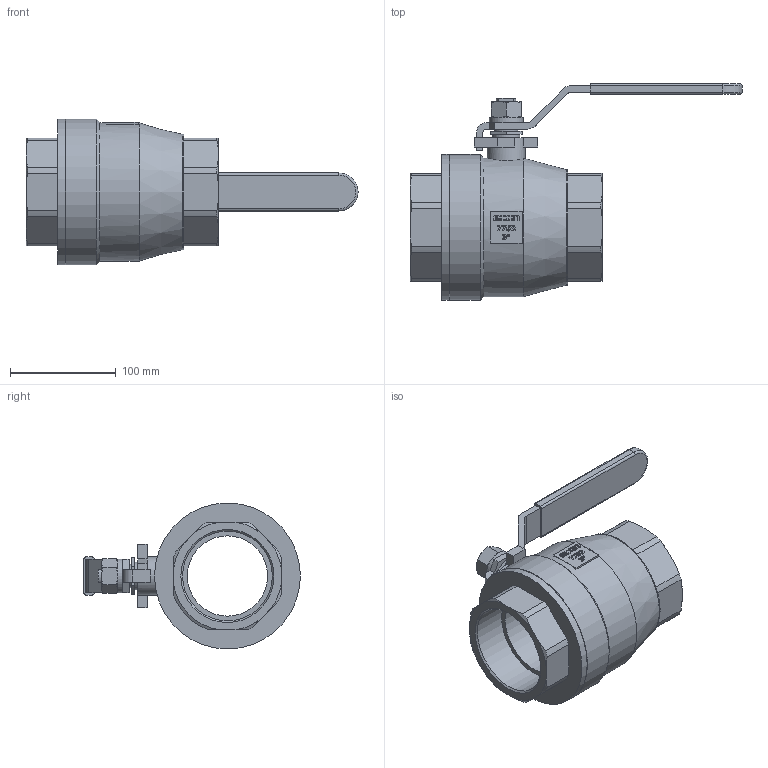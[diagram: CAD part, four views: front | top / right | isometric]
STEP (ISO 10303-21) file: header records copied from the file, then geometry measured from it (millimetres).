
FILE_DESCRIPTION(/* description */ ('Eriks item no: 12427458'),/* implementation_level */ '2;1');
FILE_NAME(/* name */ '7752-DN80-FB-1000PSI-BSPP.stp',/* time_stamp */ '2024-02-16T16:37:10+01:00',/* author */ ('roger.thijssen'),/* organization */ (''),/* preprocessor_version */ 'ST-DEVELOPER v19.2',/* originating_system */ 'Autodesk Inventor 2024',/* authorisation */ '');
FILE_SCHEMA (('AUTOMOTIVE_DESIGN { 1 0 10303 214 3 1 1 }'));
Length unit declared in the file: millimetre
Products named in the file (1): Ball valve, 7752-DN80-FB-1000PSI-BSPP
Bounding box: 314 x 205 x 138 mm (x, y, z)
Volume: 1327208.8 mm3; surface area: 160057.9 mm2
Topology: 1 solids, 1 shells, 977 faces, 2696 edges, 1785 vertices
Faces by surface type: plane 790, bspline 81, cylinder 71, cone 33, torus 2
Full cylindrical faces by diameter (mm): 22 x1, 26 x1, 32 x1, 36 x1, 76 x1, 84.926 x2, 109 x1, 131 x1, 138 x2
Entity records: 32423 total; most frequent: CARTESIAN_POINT 6982, ORIENTED_EDGE 5392, DIRECTION 4457, EDGE_CURVE 2696, LINE 2291, VECTOR 2291, VERTEX_POINT 1785, AXIS2_PLACEMENT_3D 1083
